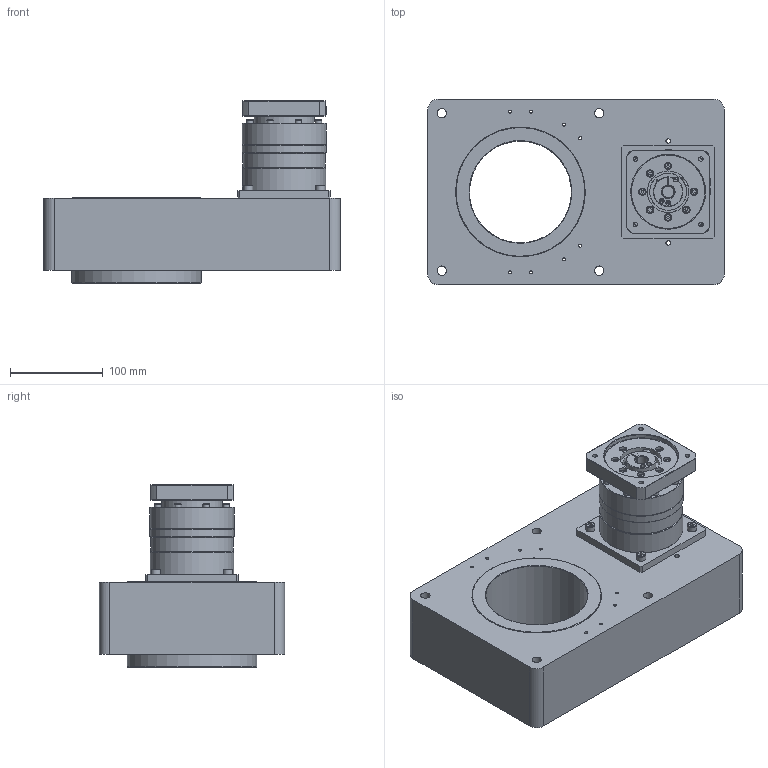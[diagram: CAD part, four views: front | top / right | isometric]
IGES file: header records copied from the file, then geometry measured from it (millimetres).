
Global section: file name: No Iges File Name specified; native system: Autodesk Inventor 2012; preprocessor: AutoDesk Inventor Iges Exporter R2012; author: disegnatore3; date: 20170117.115040; units: millimetre
Bounding box: 320 x 200 x 197 mm (x, y, z)
Volume: 4915053.8 mm3; surface area: 404219.4 mm2
Topology: 12 solids, 12 shells, 589 faces, 1227 edges, 785 vertices
Faces by surface type: plane 290, revolution 188, cylinder 52, cone 34, torus 25
Full cylindrical faces by diameter (mm): 5 x1, 6 x8, 7 x15, 8.5 x1, 10 x8, 22 x1, 25 x1, 65 x1, 68 x1, 89 x1, 90 x1, 91 x2, 140 x1
